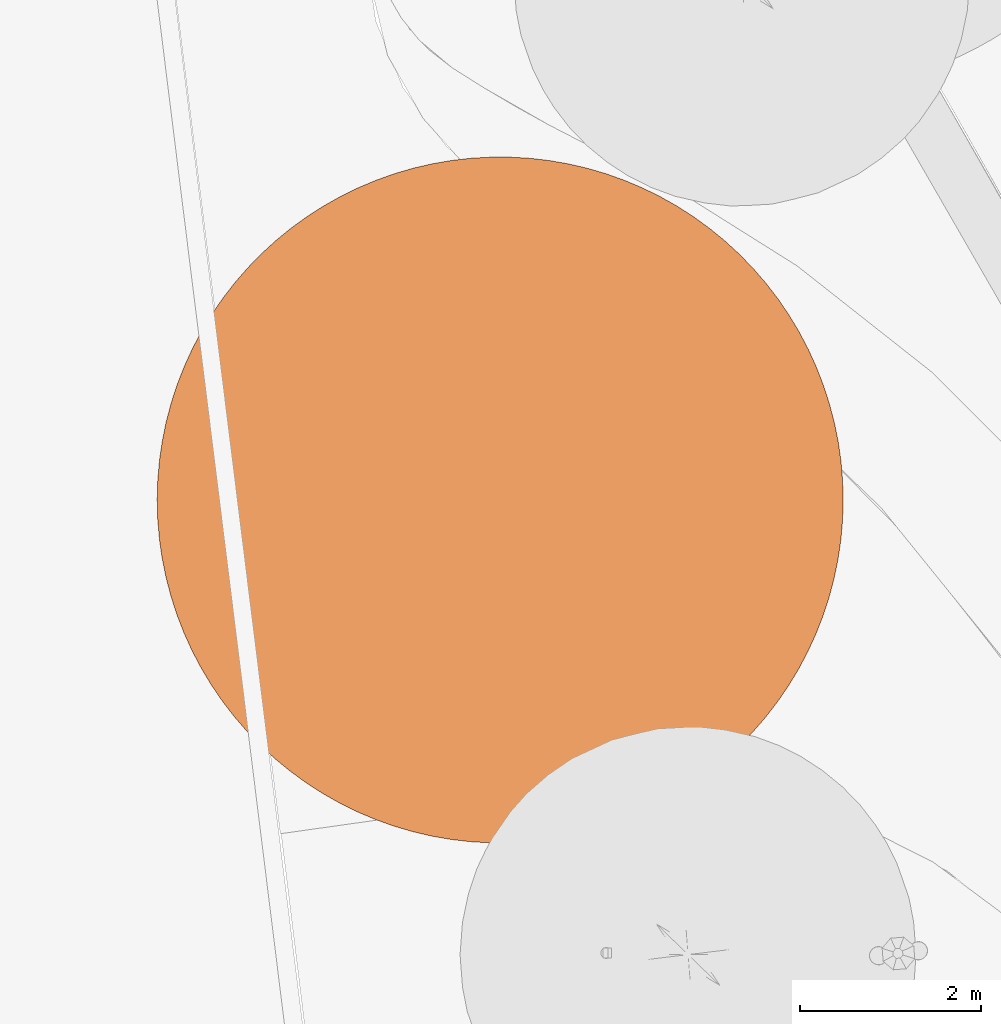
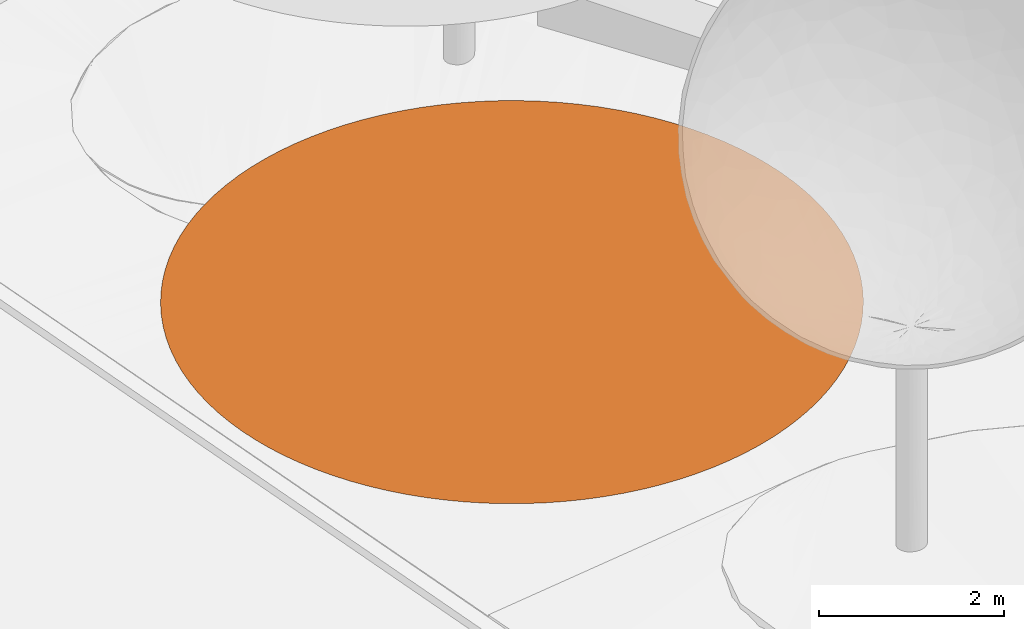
# One storey, part 68 of 75: 1 proxy.
"""IFC2X3 building model written with IfcOpenShell, lengths in metres."""

from ifc_helpers import new_model, entity, si_unit, converted_unit, derived_unit, direction, frame, origin, place, context, subcontext, project, spatial, face_set, surface_model, source, transform, mapped, material, type_object, type_shapes, element, save


model = new_model("IFC2X3")

# Units and contexts
model_context = context("Model", 3, precision=1e-05, world=origin(), true_north=direction((6.123031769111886e-17, 1.0)))
body_context = subcontext(model_context, "Body", "Model", "MODEL_VIEW")
ifc_project = project(units=[si_unit("LENGTHUNIT", "METRE"), si_unit("AREAUNIT", "SQUARE_METRE"), si_unit("VOLUMEUNIT", "CUBIC_METRE"), converted_unit("PLANEANGLEUNIT", "DEGREE", entity("IfcRatioMeasure", 0.017453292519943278), si_unit("PLANEANGLEUNIT", "RADIAN"), dimensions=[0, 0, 0, 0, 0, 0, 0]), si_unit("MASSUNIT", "GRAM", prefix="KILO"), derived_unit("MASSDENSITYUNIT", [(si_unit("MASSUNIT", "GRAM", prefix="KILO"), 1), (si_unit("LENGTHUNIT", "METRE"), -3)]), derived_unit("IONCONCENTRATIONUNIT", [(si_unit("MASSUNIT", "GRAM", prefix="KILO"), 1), (si_unit("LENGTHUNIT", "METRE"), -3)]), derived_unit("MOMENTOFINERTIAUNIT", [(si_unit("LENGTHUNIT", "METRE"), 4)]), si_unit("TIMEUNIT", "SECOND"), si_unit("FREQUENCYUNIT", "HERTZ"), si_unit("THERMODYNAMICTEMPERATUREUNIT", "DEGREE_CELSIUS"), derived_unit("THERMALTRANSMITTANCEUNIT", [(si_unit("MASSUNIT", "GRAM", prefix="KILO"), 1), (si_unit("THERMODYNAMICTEMPERATUREUNIT", "KELVIN"), -1), (si_unit("TIMEUNIT", "SECOND"), -3)]), derived_unit("THERMALCONDUCTANCEUNIT", [(si_unit("MASSUNIT", "GRAM", prefix="KILO"), 1), (si_unit("THERMODYNAMICTEMPERATUREUNIT", "KELVIN"), -1), (si_unit("TIMEUNIT", "SECOND"), -3), (si_unit("LENGTHUNIT", "METRE"), 1)]), derived_unit("VOLUMETRICFLOWRATEUNIT", [(si_unit("LENGTHUNIT", "METRE"), 3), (si_unit("TIMEUNIT", "SECOND"), -1)]), derived_unit("MASSFLOWRATEUNIT", [(si_unit("MASSUNIT", "GRAM", prefix="KILO"), 1), (si_unit("TIMEUNIT", "SECOND"), -1)]), derived_unit("ROTATIONALFREQUENCYUNIT", [(si_unit("TIMEUNIT", "SECOND"), -1)]), si_unit("ELECTRICCURRENTUNIT", "AMPERE"), si_unit("ELECTRICVOLTAGEUNIT", "VOLT"), si_unit("POWERUNIT", "WATT"), si_unit("FORCEUNIT", "NEWTON", prefix="KILO"), si_unit("ILLUMINANCEUNIT", "LUX"), si_unit("LUMINOUSFLUXUNIT", "LUMEN"), si_unit("LUMINOUSINTENSITYUNIT", "CANDELA"), derived_unit("USERDEFINED", [(si_unit("MASSUNIT", "GRAM", prefix="KILO"), -1), (si_unit("LENGTHUNIT", "METRE"), -2), (si_unit("TIMEUNIT", "SECOND"), 3), (si_unit("LUMINOUSFLUXUNIT", "LUMEN"), 1)]), derived_unit("USERDEFINED", [(si_unit("MASSUNIT", "GRAM", prefix="KILO"), 1), (si_unit("TIMEUNIT", "SECOND"), -3), (si_unit("LENGTHUNIT", "METRE"), 3), (si_unit("ELECTRICCURRENTUNIT", "AMPERE"), -2)]), derived_unit("SOUNDPOWERUNIT", [(si_unit("MASSUNIT", "GRAM", prefix="KILO"), 1), (si_unit("TIMEUNIT", "SECOND"), -3), (si_unit("LENGTHUNIT", "METRE"), 2)]), derived_unit("SOUNDPRESSUREUNIT", [(si_unit("MASSUNIT", "GRAM", prefix="KILO"), 1), (si_unit("LENGTHUNIT", "METRE"), -1), (si_unit("TIMEUNIT", "SECOND"), -2)]), derived_unit("LINEARVELOCITYUNIT", [(si_unit("LENGTHUNIT", "METRE"), 1), (si_unit("TIMEUNIT", "SECOND"), -1)]), si_unit("PRESSUREUNIT", "PASCAL"), derived_unit("USERDEFINED", [(si_unit("MASSUNIT", "GRAM", prefix="KILO"), 1), (si_unit("LENGTHUNIT", "METRE"), -2), (si_unit("TIMEUNIT", "SECOND"), -2)]), derived_unit("LINEARFORCEUNIT", [(si_unit("MASSUNIT", "GRAM", prefix="KILO"), 1), (si_unit("TIMEUNIT", "SECOND"), -2)]), derived_unit("PLANARFORCEUNIT", [(si_unit("MASSUNIT", "GRAM", prefix="KILO"), 1), (si_unit("LENGTHUNIT", "METRE"), -1), (si_unit("TIMEUNIT", "SECOND"), -2)]), derived_unit("SPECIFICHEATCAPACITYUNIT", [(si_unit("THERMODYNAMICTEMPERATUREUNIT", "KELVIN"), -1), (si_unit("LENGTHUNIT", "METRE"), 2), (si_unit("TIMEUNIT", "SECOND"), -2)]), derived_unit("HEATINGVALUEUNIT", [(si_unit("LENGTHUNIT", "METRE"), 2), (si_unit("TIMEUNIT", "SECOND"), -2)]), derived_unit("VAPORPERMEABILITYUNIT", [(si_unit("LENGTHUNIT", "METRE"), -1), (si_unit("TIMEUNIT", "SECOND"), 1)]), derived_unit("DYNAMICVISCOSITYUNIT", [(si_unit("MASSUNIT", "GRAM", prefix="KILO"), 1), (si_unit("TIMEUNIT", "SECOND"), -1), (si_unit("LENGTHUNIT", "METRE"), -1)]), derived_unit("THERMALEXPANSIONCOEFFICIENTUNIT", [(si_unit("THERMODYNAMICTEMPERATUREUNIT", "KELVIN"), -1)]), derived_unit("MODULUSOFELASTICITYUNIT", [(si_unit("MASSUNIT", "GRAM", prefix="KILO"), 1), (si_unit("LENGTHUNIT", "METRE"), -1), (si_unit("TIMEUNIT", "SECOND"), -2)]), derived_unit("ISOTHERMALMOISTURECAPACITYUNIT", [(si_unit("LENGTHUNIT", "METRE"), 3), (si_unit("MASSUNIT", "GRAM", prefix="KILO"), -1)]), derived_unit("MOISTUREDIFFUSIVITYUNIT", [(si_unit("TIMEUNIT", "SECOND"), -1), (si_unit("LENGTHUNIT", "METRE"), 2)])], contexts=[model_context])

# Site, building, storey
site_placement = place(None, origin())
site = spatial("IfcSite", under=ifc_project, at=site_placement, Name="Default", CompositionType="ELEMENT")
building_placement = place(site_placement, origin())
building = spatial("IfcBuilding", under=site, at=building_placement, Name="Projeto", CompositionType="ELEMENT")
storey_placement = place(building_placement, origin())
storey = spatial("IfcBuildingStorey", under=building, at=storey_placement, Name="Nível 1", CompositionType="ELEMENT", Elevation=0.0)

# Proxy
ifc_material = material(Name="<Unnamed>")
building_element_proxy_type = type_object("IfcBuildingElementProxyType", Name="Arvore simplificada:Arvore simplificada", PredefinedType="NOTDEFINED", material=ifc_material)
shared_shape = source(origin(), body_context, "Body", "SurfaceModel", [
    surface_model("IfcFaceBasedSurfaceModel", [(-3.9544974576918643, -0.18317979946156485, 0.0), (-3.9483138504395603, -0.3996342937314, 0.0), (-3.929783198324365, -0.6153827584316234, 0.0), (-3.8989659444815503, -0.8297214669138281, 0.0), (-3.855962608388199, -1.0419512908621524, 0.0), (-3.8009134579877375, -1.2513799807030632, 0.0), (-3.733998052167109, -1.4573244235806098, 0.0), (-3.655434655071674, -1.6591128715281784, 0.0), (-3.5654795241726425, -1.8560871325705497, 0.0), (-3.4644260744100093, -2.0476047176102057, 0.0), (-3.3526039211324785, -2.2330409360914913, 0.0), (-3.2303778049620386, -2.411790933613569, 0.0), (-3.098146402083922, -2.583271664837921, 0.0), (-2.9563410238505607, -2.7469237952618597, 0.0), (-2.8054242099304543, -2.9022135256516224, 0.0), (-2.6458882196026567, -3.048634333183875, 0.0), (-2.4782534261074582, -3.1857086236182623, 0.0), (-2.3030666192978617, -3.3129892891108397, 0.0), (-2.12089922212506, -3.430061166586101, 0.0), (-1.93234542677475, -3.5365423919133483, 0.0), (-1.7380202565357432, -3.632085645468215, 0.0), (-1.5385575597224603, -3.7163792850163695, 0.0), (-1.3346079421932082, -3.789148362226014, 0.0), (-1.1268366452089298, -3.8501555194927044, 0.0), (-0.9159213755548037, -3.8992017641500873, 0.0), (-0.7025500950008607, -3.9361271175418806, 0.0), (-0.48741877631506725, -3.9608111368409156, 0.0), (-0.2712291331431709, -3.9731733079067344, 0.0), (-0.054686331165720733, -3.9731733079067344, 0.0), (0.16150331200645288, -3.9608111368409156, 0.0), (0.3766346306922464, -3.9361271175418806, 0.0), (0.5900059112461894, -3.8992017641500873, 0.0), (0.8009211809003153, -3.8501555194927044, 0.0), (1.0086924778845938, -3.789148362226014, 0.0), (1.212642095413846, -3.7163792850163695, 0.0), (1.4121047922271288, -3.632085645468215, 0.0), (1.6064299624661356, -3.5365423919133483, 0.0), (1.7949837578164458, -3.430061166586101, 0.0), (1.9771511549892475, -3.3129892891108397, 0.0), (2.152337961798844, -3.1857086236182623, 0.0), (2.3199727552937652, -3.048634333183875, 0.0), (2.479508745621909, -2.9022135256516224, 0.0), (2.6304255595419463, -2.7469237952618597, 0.0), (2.7722309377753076, -2.583271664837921, 0.0), (2.9044623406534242, -2.411790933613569, 0.0), (3.026688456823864, -2.2330409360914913, 0.0), (3.138510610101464, -2.0476047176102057, 0.0), (3.239564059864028, -1.8560871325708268, 0.0), (3.3295191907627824, -1.6591128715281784, 0.0), (3.4080825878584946, -1.4573244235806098, 0.0), (3.474997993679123, -1.2513799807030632, 0.0), (3.5300471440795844, -1.0419512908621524, 0.0), (3.573050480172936, -0.8297214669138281, 0.0), (3.6038677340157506, -0.6153827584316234, 0.0), (3.622398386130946, -0.3996342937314, 0.0), (3.62858199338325, -0.18317979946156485, 0.0), (3.622398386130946, 0.03327469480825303, 0.0), (3.6038677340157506, 0.24902315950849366, 0.0), (3.573050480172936, 0.4633618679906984, 0.0), (3.5300471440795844, 0.6755916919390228, 0.0), (3.474997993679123, 0.8850203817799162, 0.0), (3.4080825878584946, 1.0909648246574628, 0.0), (3.3295191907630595, 1.2927532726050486, 0.0), (3.239564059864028, 1.4897275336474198, 0.0), (3.138510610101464, 1.6812451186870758, 0.0), (3.026688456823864, 1.8666813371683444, 0.0), (2.9044623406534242, 2.0454313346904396, 0.0), (2.7722309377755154, 2.2169120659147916, 0.0), (2.6304255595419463, 2.38056419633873, 0.0), (2.479508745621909, 2.535853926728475, 0.0), (2.3199727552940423, 2.682274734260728, 0.0), (2.152337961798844, 2.819349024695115, 0.0), (1.9771511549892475, 2.946629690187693, 0.0), (1.7949837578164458, 3.063701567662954, 0.0), (1.6064299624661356, 3.1701827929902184, 0.0), (1.4121047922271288, 3.265726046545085, 0.0), (1.212642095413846, 3.3500196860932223, 0.0), (1.0086924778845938, 3.422788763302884, 0.0), (0.8009211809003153, 3.4837959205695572, 0.0), (0.5900059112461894, 3.5328421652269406, 0.0), (0.3766346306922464, 3.5697675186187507, 0.0), (0.16150331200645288, 3.5944515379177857, 0.0), (-0.05468633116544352, 3.606813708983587, 0.0), (-0.27122913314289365, 3.606813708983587, 0.0), (-0.48741877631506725, 3.5944515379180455, 0.0), (-0.7025500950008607, 3.5697675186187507, 0.0), (-0.9159213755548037, 3.5328421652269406, 0.0), (-1.1268366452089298, 3.4837959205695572, 0.0), (-1.3346079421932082, 3.422788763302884, 0.0), (-1.5385575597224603, 3.3500196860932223, 0.0), (-1.7380202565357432, 3.265726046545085, 0.0), (-1.93234542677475, 3.1701827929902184, 0.0), (-2.12089922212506, 3.063701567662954, 0.0), (-2.3030666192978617, 2.946629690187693, 0.0), (-2.4782534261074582, 2.819349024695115, 0.0), (-2.6458882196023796, 2.682274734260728, 0.0), (-2.8054242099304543, 2.535853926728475, 0.0), (-2.9563410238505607, 2.38056419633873, 0.0), (-3.098146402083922, 2.2169120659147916, 0.0), (-3.2303778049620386, 2.0454313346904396, 0.0), (-3.3526039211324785, 1.8666813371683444, 0.0), (-3.4644260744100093, 1.6812451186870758, 0.0), (-3.5654795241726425, 1.4897275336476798, 0.0), (-3.6554346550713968, 1.2927532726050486, 0.0), (-3.733998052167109, 1.0909648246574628, 0.0), (-3.8009134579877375, 0.8850203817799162, 0.0), (-3.855962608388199, 0.6755916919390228, 0.0), (-3.8989659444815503, 0.4633618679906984, 0.0), (-3.929783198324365, 0.24902315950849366, 0.0), (-3.9483138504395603, 0.03327469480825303, 0.0)], [face_set([[[0, 1, 2, 3, 4, 5, 6, 7, 8, 9, 10, 11, 12, 13, 14, 15, 16, 17, 18, 19, 20, 21, 22, 23, 24, 25, 26, 27, 28, 29, 30, 31, 32, 33, 34, 35, 36, 37, 38, 39, 40, 41, 42, 43, 44, 45, 46, 47, 48, 49, 50, 51, 52, 53, 54, 55, 56, 57, 58, 59, 60, 61, 62, 63, 64, 65, 66, 67, 68, 69, 70, 71, 72, 73, 74, 75, 76, 77, 78, 79, 80, 81, 82, 83, 84, 85, 86, 87, 88, 89, 90, 91, 92, 93, 94, 95, 96, 97, 98, 99, 100, 101, 102, 103, 104, 105, 106, 107, 108, 109]]])]),
])
type_shapes(building_element_proxy_type, [shared_shape])
proxy_placement = place(storey_placement, frame((-23.088509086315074, 4.795743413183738, 0.0), z_axis=(0.0, 0.0, 1.0), x_axis=(0.9422539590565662, 0.3348992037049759, 0.0)))
element("IfcBuildingElementProxy", 1, at=proxy_placement, inside=storey, type_object=building_element_proxy_type, material=ifc_material, Name="Arvore simplificada:Arvore simplificada", ObjectType="Arvore simplificada:Arvore simplificada", context=body_context, shape_type="MappedRepresentation", body=[
    mapped(shared_shape, transform((0.0, 0.0, 0.0), scale=1.0)),
])

save(model, "model.ifc")
